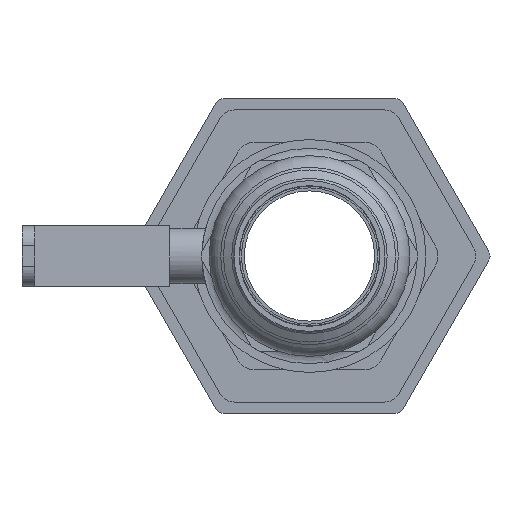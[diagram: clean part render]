
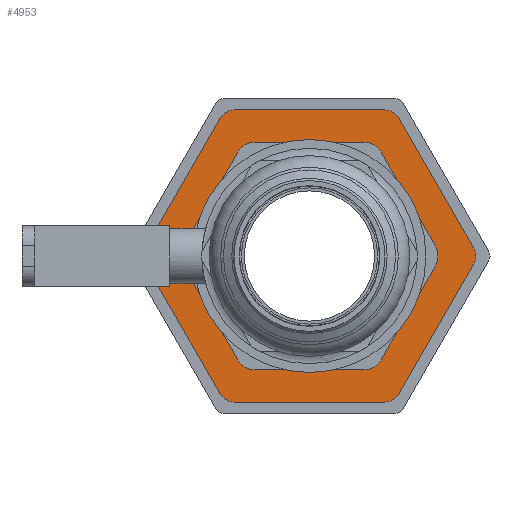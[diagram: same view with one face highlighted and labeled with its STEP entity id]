
A CAD part, left-side view. The second image highlights one B-rep face of the part: STEP entity #4953.
In plain terms, the highlighted planar face has unit normal (-1, 0, 0) as drawn and (1, 0, 0) by its records, which use the part's own axes.
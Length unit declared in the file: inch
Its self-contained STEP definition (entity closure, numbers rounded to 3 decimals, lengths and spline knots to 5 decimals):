
#128=FACE_BOUND('',#785,.T.);
#266=PLANE('',#5639);
#502=FACE_OUTER_BOUND('',#784,.T.);
#784=EDGE_LOOP('',(#4211,#4212,#4213,#4214,#4215,#4216,#4217,#4218,#4219,
#4220,#4221,#4222));
#785=EDGE_LOOP('',(#4223,#4224,#4225,#4226,#4227,#4228,#4229,#4230,#4231,
#4232,#4233,#4234));
#1160=LINE('',#8580,#1544);
#1161=LINE('',#8584,#1545);
#1162=LINE('',#8588,#1546);
#1163=LINE('',#8592,#1547);
#1164=LINE('',#8596,#1548);
#1165=LINE('',#8600,#1549);
#1166=LINE('',#8606,#1550);
#1167=LINE('',#8610,#1551);
#1168=LINE('',#8614,#1552);
#1169=LINE('',#8618,#1553);
#1170=LINE('',#8622,#1554);
#1171=LINE('',#8625,#1555);
#1544=VECTOR('',#7023,0.3937);
#1545=VECTOR('',#7026,0.3937);
#1546=VECTOR('',#7029,0.3937);
#1547=VECTOR('',#7032,0.3937);
#1548=VECTOR('',#7035,0.3937);
#1549=VECTOR('',#7038,0.3937);
#1550=VECTOR('',#7043,0.3937);
#1551=VECTOR('',#7046,0.3937);
#1552=VECTOR('',#7049,0.3937);
#1553=VECTOR('',#7052,0.3937);
#1554=VECTOR('',#7055,0.3937);
#1555=VECTOR('',#7058,0.3937);
#1848=CIRCLE('',#5640,0.1);
#1849=CIRCLE('',#5641,0.1);
#1850=CIRCLE('',#5642,0.1);
#1851=CIRCLE('',#5643,0.1);
#1852=CIRCLE('',#5644,0.1);
#1853=CIRCLE('',#5645,0.1);
#1854=CIRCLE('',#5646,0.125);
#1855=CIRCLE('',#5647,0.125);
#1856=CIRCLE('',#5648,0.125);
#1857=CIRCLE('',#5649,0.125);
#1858=CIRCLE('',#5650,0.125);
#1859=CIRCLE('',#5651,0.125);
#2297=VERTEX_POINT('',#8578);
#2298=VERTEX_POINT('',#8579);
#2299=VERTEX_POINT('',#8581);
#2300=VERTEX_POINT('',#8583);
#2301=VERTEX_POINT('',#8585);
#2302=VERTEX_POINT('',#8587);
#2303=VERTEX_POINT('',#8589);
#2304=VERTEX_POINT('',#8591);
#2305=VERTEX_POINT('',#8593);
#2306=VERTEX_POINT('',#8595);
#2307=VERTEX_POINT('',#8597);
#2308=VERTEX_POINT('',#8599);
#2309=VERTEX_POINT('',#8602);
#2310=VERTEX_POINT('',#8603);
#2311=VERTEX_POINT('',#8605);
#2312=VERTEX_POINT('',#8607);
#2313=VERTEX_POINT('',#8609);
#2314=VERTEX_POINT('',#8611);
#2315=VERTEX_POINT('',#8613);
#2316=VERTEX_POINT('',#8615);
#2317=VERTEX_POINT('',#8617);
#2318=VERTEX_POINT('',#8619);
#2319=VERTEX_POINT('',#8621);
#2320=VERTEX_POINT('',#8623);
#2952=EDGE_CURVE('',#2297,#2298,#1160,.T.);
#2953=EDGE_CURVE('',#2298,#2299,#1848,.T.);
#2954=EDGE_CURVE('',#2299,#2300,#1161,.T.);
#2955=EDGE_CURVE('',#2300,#2301,#1849,.T.);
#2956=EDGE_CURVE('',#2301,#2302,#1162,.T.);
#2957=EDGE_CURVE('',#2302,#2303,#1850,.T.);
#2958=EDGE_CURVE('',#2303,#2304,#1163,.T.);
#2959=EDGE_CURVE('',#2304,#2305,#1851,.T.);
#2960=EDGE_CURVE('',#2305,#2306,#1164,.T.);
#2961=EDGE_CURVE('',#2306,#2307,#1852,.T.);
#2962=EDGE_CURVE('',#2307,#2308,#1165,.T.);
#2963=EDGE_CURVE('',#2308,#2297,#1853,.T.);
#2964=EDGE_CURVE('',#2309,#2310,#1854,.T.);
#2965=EDGE_CURVE('',#2310,#2311,#1166,.T.);
#2966=EDGE_CURVE('',#2311,#2312,#1855,.T.);
#2967=EDGE_CURVE('',#2312,#2313,#1167,.T.);
#2968=EDGE_CURVE('',#2313,#2314,#1856,.T.);
#2969=EDGE_CURVE('',#2314,#2315,#1168,.T.);
#2970=EDGE_CURVE('',#2315,#2316,#1857,.T.);
#2971=EDGE_CURVE('',#2316,#2317,#1169,.T.);
#2972=EDGE_CURVE('',#2317,#2318,#1858,.T.);
#2973=EDGE_CURVE('',#2318,#2319,#1170,.T.);
#2974=EDGE_CURVE('',#2319,#2320,#1859,.T.);
#2975=EDGE_CURVE('',#2320,#2309,#1171,.T.);
#4211=ORIENTED_EDGE('',*,*,#2952,.T.);
#4212=ORIENTED_EDGE('',*,*,#2953,.T.);
#4213=ORIENTED_EDGE('',*,*,#2954,.T.);
#4214=ORIENTED_EDGE('',*,*,#2955,.T.);
#4215=ORIENTED_EDGE('',*,*,#2956,.T.);
#4216=ORIENTED_EDGE('',*,*,#2957,.T.);
#4217=ORIENTED_EDGE('',*,*,#2958,.T.);
#4218=ORIENTED_EDGE('',*,*,#2959,.T.);
#4219=ORIENTED_EDGE('',*,*,#2960,.T.);
#4220=ORIENTED_EDGE('',*,*,#2961,.T.);
#4221=ORIENTED_EDGE('',*,*,#2962,.T.);
#4222=ORIENTED_EDGE('',*,*,#2963,.T.);
#4223=ORIENTED_EDGE('',*,*,#2964,.T.);
#4224=ORIENTED_EDGE('',*,*,#2965,.T.);
#4225=ORIENTED_EDGE('',*,*,#2966,.T.);
#4226=ORIENTED_EDGE('',*,*,#2967,.T.);
#4227=ORIENTED_EDGE('',*,*,#2968,.T.);
#4228=ORIENTED_EDGE('',*,*,#2969,.T.);
#4229=ORIENTED_EDGE('',*,*,#2970,.T.);
#4230=ORIENTED_EDGE('',*,*,#2971,.T.);
#4231=ORIENTED_EDGE('',*,*,#2972,.T.);
#4232=ORIENTED_EDGE('',*,*,#2973,.T.);
#4233=ORIENTED_EDGE('',*,*,#2974,.T.);
#4234=ORIENTED_EDGE('',*,*,#2975,.T.);
#4953=ADVANCED_FACE('',(#502,#128),#266,.F.);
#5639=AXIS2_PLACEMENT_3D('',#8577,#7021,#7022);
#5640=AXIS2_PLACEMENT_3D('',#8582,#7024,#7025);
#5641=AXIS2_PLACEMENT_3D('',#8586,#7027,#7028);
#5642=AXIS2_PLACEMENT_3D('',#8590,#7030,#7031);
#5643=AXIS2_PLACEMENT_3D('',#8594,#7033,#7034);
#5644=AXIS2_PLACEMENT_3D('',#8598,#7036,#7037);
#5645=AXIS2_PLACEMENT_3D('',#8601,#7039,#7040);
#5646=AXIS2_PLACEMENT_3D('',#8604,#7041,#7042);
#5647=AXIS2_PLACEMENT_3D('',#8608,#7044,#7045);
#5648=AXIS2_PLACEMENT_3D('',#8612,#7047,#7048);
#5649=AXIS2_PLACEMENT_3D('',#8616,#7050,#7051);
#5650=AXIS2_PLACEMENT_3D('',#8620,#7053,#7054);
#5651=AXIS2_PLACEMENT_3D('',#8624,#7056,#7057);
#7021=DIRECTION('center_axis',(-1.,0.,0.));
#7022=DIRECTION('ref_axis',(0.,0.,1.));
#7023=DIRECTION('',(0.,-0.5,0.866));
#7024=DIRECTION('center_axis',(1.,0.,0.));
#7025=DIRECTION('ref_axis',(0.,0.,-1.));
#7026=DIRECTION('',(0.,-1.,0.));
#7027=DIRECTION('center_axis',(1.,0.,0.));
#7028=DIRECTION('ref_axis',(0.,0.866,-0.5));
#7029=DIRECTION('',(0.,-0.5,-0.866));
#7030=DIRECTION('center_axis',(1.,0.,0.));
#7031=DIRECTION('ref_axis',(0.,0.866,0.5));
#7032=DIRECTION('',(0.,0.5,-0.866));
#7033=DIRECTION('center_axis',(1.,0.,0.));
#7034=DIRECTION('ref_axis',(0.,0.,1.));
#7035=DIRECTION('',(0.,1.,0.));
#7036=DIRECTION('center_axis',(1.,0.,0.));
#7037=DIRECTION('ref_axis',(0.,-0.866,0.5));
#7038=DIRECTION('',(0.,0.5,0.866));
#7039=DIRECTION('center_axis',(1.,0.,0.));
#7040=DIRECTION('ref_axis',(0.,-0.866,-0.5));
#7041=DIRECTION('center_axis',(-1.,0.,0.));
#7042=DIRECTION('ref_axis',(0.,-0.866,0.5));
#7043=DIRECTION('',(0.,-0.5,-0.866));
#7044=DIRECTION('center_axis',(-1.,0.,0.));
#7045=DIRECTION('ref_axis',(0.,0.,1.));
#7046=DIRECTION('',(0.,-1.,0.));
#7047=DIRECTION('center_axis',(-1.,0.,0.));
#7048=DIRECTION('ref_axis',(0.,0.866,0.5));
#7049=DIRECTION('',(0.,-0.5,0.866));
#7050=DIRECTION('center_axis',(-1.,0.,0.));
#7051=DIRECTION('ref_axis',(0.,0.866,-0.5));
#7052=DIRECTION('',(0.,0.5,0.866));
#7053=DIRECTION('center_axis',(-1.,0.,0.));
#7054=DIRECTION('ref_axis',(0.,0.,-1.));
#7055=DIRECTION('',(0.,1.,0.));
#7056=DIRECTION('center_axis',(-1.,0.,0.));
#7057=DIRECTION('ref_axis',(0.,-0.866,-0.5));
#7058=DIRECTION('',(0.,0.5,-0.866));
#8577=CARTESIAN_POINT('Origin',(1.275,0.,0.));
#8578=CARTESIAN_POINT('',(1.275,1.02141,0.05));
#8579=CARTESIAN_POINT('',(1.275,0.55401,0.85957));
#8580=CARTESIAN_POINT('',(1.275,1.02141,0.05));
#8581=CARTESIAN_POINT('',(1.275,0.4674,0.90957));
#8582=CARTESIAN_POINT('Origin',(1.275,0.4674,0.80957));
#8583=CARTESIAN_POINT('',(1.275,-0.4674,0.90957));
#8584=CARTESIAN_POINT('',(1.275,0.4674,0.90957));
#8585=CARTESIAN_POINT('',(1.275,-0.55401,0.85957));
#8586=CARTESIAN_POINT('Origin',(1.275,-0.4674,0.80957));
#8587=CARTESIAN_POINT('',(1.275,-1.02141,0.05));
#8588=CARTESIAN_POINT('',(1.275,-0.55401,0.85957));
#8589=CARTESIAN_POINT('',(1.275,-1.02141,-0.05));
#8590=CARTESIAN_POINT('Origin',(1.275,-0.93481,0.));
#8591=CARTESIAN_POINT('',(1.275,-0.55401,-0.85957));
#8592=CARTESIAN_POINT('',(1.275,-1.02141,-0.05));
#8593=CARTESIAN_POINT('',(1.275,-0.4674,-0.90957));
#8594=CARTESIAN_POINT('Origin',(1.275,-0.4674,-0.80957));
#8595=CARTESIAN_POINT('',(1.275,0.4674,-0.90957));
#8596=CARTESIAN_POINT('',(1.275,-0.4674,-0.90957));
#8597=CARTESIAN_POINT('',(1.275,0.55401,-0.85957));
#8598=CARTESIAN_POINT('Origin',(1.275,0.4674,-0.80957));
#8599=CARTESIAN_POINT('',(1.275,1.02141,-0.05));
#8600=CARTESIAN_POINT('',(1.275,0.55401,-0.85957));
#8601=CARTESIAN_POINT('Origin',(1.275,0.93481,0.));
#8602=CARTESIAN_POINT('',(1.275,0.78325,0.0625));
#8603=CARTESIAN_POINT('',(1.275,0.78325,-0.0625));
#8604=CARTESIAN_POINT('Origin',(1.275,0.675,0.));
#8605=CARTESIAN_POINT('',(1.275,0.44575,-0.64707));
#8606=CARTESIAN_POINT('',(1.275,0.78325,-0.0625));
#8607=CARTESIAN_POINT('',(1.275,0.3375,-0.70957));
#8608=CARTESIAN_POINT('Origin',(1.275,0.3375,-0.58457));
#8609=CARTESIAN_POINT('',(1.275,-0.3375,-0.70957));
#8610=CARTESIAN_POINT('',(1.275,0.3375,-0.70957));
#8611=CARTESIAN_POINT('',(1.275,-0.44575,-0.64707));
#8612=CARTESIAN_POINT('Origin',(1.275,-0.3375,-0.58457));
#8613=CARTESIAN_POINT('',(1.275,-0.78325,-0.0625));
#8614=CARTESIAN_POINT('',(1.275,-0.44575,-0.64707));
#8615=CARTESIAN_POINT('',(1.275,-0.78325,0.0625));
#8616=CARTESIAN_POINT('Origin',(1.275,-0.675,0.));
#8617=CARTESIAN_POINT('',(1.275,-0.44575,0.64707));
#8618=CARTESIAN_POINT('',(1.275,-0.78325,0.0625));
#8619=CARTESIAN_POINT('',(1.275,-0.3375,0.70957));
#8620=CARTESIAN_POINT('Origin',(1.275,-0.3375,0.58457));
#8621=CARTESIAN_POINT('',(1.275,0.3375,0.70957));
#8622=CARTESIAN_POINT('',(1.275,-0.3375,0.70957));
#8623=CARTESIAN_POINT('',(1.275,0.44575,0.64707));
#8624=CARTESIAN_POINT('Origin',(1.275,0.3375,0.58457));
#8625=CARTESIAN_POINT('',(1.275,0.44575,0.64707));
